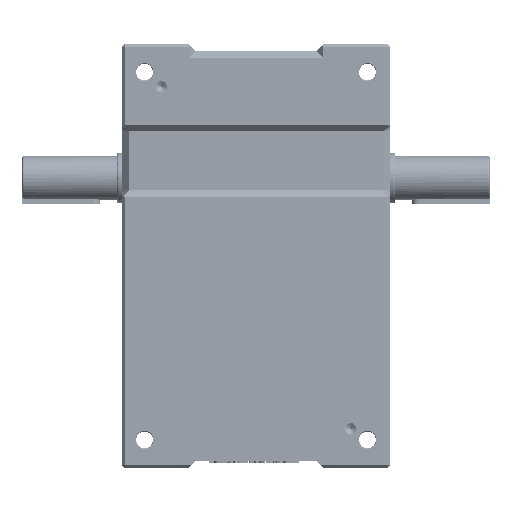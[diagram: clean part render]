
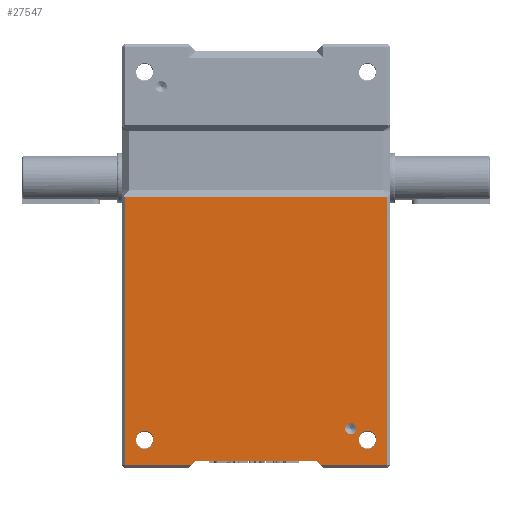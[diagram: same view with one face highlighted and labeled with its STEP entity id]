
A CAD part, front view. The second image highlights one B-rep face of the part: STEP entity #27547.
In plain terms, the highlighted planar face has unit normal (0, -1, 0).
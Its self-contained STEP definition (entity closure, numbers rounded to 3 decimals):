
#1228 = CIRCLE ( 'NONE', #66657, 8.025 ) ;
#1864 = EDGE_CURVE ( 'NONE', #98823, #67070, #161663, .T. ) ;
#3440 = CARTESIAN_POINT ( 'NONE',  ( 118., -130., 0. ) ) ;
#3555 = CARTESIAN_POINT ( 'NONE',  ( -100., -130., -165. ) ) ;
#6409 = LINE ( 'NONE', #138714, #148962 ) ;
#10758 = VERTEX_POINT ( 'NONE', #130734 ) ;
#11677 = LINE ( 'NONE', #133662, #80741 ) ;
#14515 = DIRECTION ( 'NONE',  ( -1., 0., 0. ) ) ;
#16139 = ORIENTED_EDGE ( 'NONE', *, *, #1864, .F. ) ;
#16954 = DIRECTION ( 'NONE',  ( 0., -1., 0. ) ) ;
#17451 = DIRECTION ( 'NONE',  ( 0., 0., -1. ) ) ;
#18944 = EDGE_CURVE ( 'NONE', #174953, #82368, #69424, .T. ) ;
#19798 = CARTESIAN_POINT ( 'NONE',  ( -118., -130., 0. ) ) ;
#20462 = VERTEX_POINT ( 'NONE', #91253 ) ;
#21385 = EDGE_CURVE ( 'NONE', #73410, #138637, #6409, .T. ) ;
#23296 = VERTEX_POINT ( 'NONE', #133184 ) ;
#24377 = ORIENTED_EDGE ( 'NONE', *, *, #21385, .F. ) ;
#27224 = CARTESIAN_POINT ( 'NONE',  ( 0., -130., -188. ) ) ;
#27547 = ADVANCED_FACE ( 'NONE', ( #150141, #178182, #109108, #35667 ), #76190, .F. ) ;
#28831 = DIRECTION ( 'NONE',  ( -1., 0., 0. ) ) ;
#29108 = ORIENTED_EDGE ( 'NONE', *, *, #138239, .F. ) ;
#30353 = CARTESIAN_POINT ( 'NONE',  ( 0., -130., 53. ) ) ;
#33828 = ORIENTED_EDGE ( 'NONE', *, *, #59450, .F. ) ;
#34246 = ORIENTED_EDGE ( 'NONE', *, *, #81794, .F. ) ;
#35667 = FACE_BOUND ( 'NONE', #51377, .T. ) ;
#36722 = CARTESIAN_POINT ( 'NONE',  ( 118., -130., -188. ) ) ;
#37364 = VECTOR ( 'NONE', #14515, 1000. ) ;
#41246 = CARTESIAN_POINT ( 'NONE',  ( -54., -130., -184. ) ) ;
#41668 = VECTOR ( 'NONE', #113058, 1000. ) ;
#42648 = ORIENTED_EDGE ( 'NONE', *, *, #18944, .F. ) ;
#43719 = EDGE_LOOP ( 'NONE', ( #42648, #50927, #161670, #24377, #34246, #96526, #16139, #90761 ) ) ;
#43855 = EDGE_CURVE ( 'NONE', #23296, #174953, #153338, .T. ) ;
#44557 = DIRECTION ( 'NONE',  ( 0., -1., 0. ) ) ;
#45070 = DIRECTION ( 'NONE',  ( 0., 0., -1. ) ) ;
#46805 = CARTESIAN_POINT ( 'NONE',  ( 54., -130., -184. ) ) ;
#50927 = ORIENTED_EDGE ( 'NONE', *, *, #43855, .F. ) ;
#51377 = EDGE_LOOP ( 'NONE', ( #122545, #33828 ) ) ;
#52365 = ORIENTED_EDGE ( 'NONE', *, *, #118534, .F. ) ;
#54989 = CIRCLE ( 'NONE', #161005, 5.025 ) ;
#59450 = EDGE_CURVE ( 'NONE', #20462, #10758, #54989, .T. ) ;
#62414 = EDGE_CURVE ( 'NONE', #67070, #77714, #69719, .T. ) ;
#66657 = AXIS2_PLACEMENT_3D ( 'NONE', #154285, #71574, #168143 ) ;
#66786 = VERTEX_POINT ( 'NONE', #156859 ) ;
#67070 = VERTEX_POINT ( 'NONE', #36722 ) ;
#69424 = LINE ( 'NONE', #19798, #138606 ) ;
#69719 = LINE ( 'NONE', #27224, #37364 ) ;
#69796 = DIRECTION ( 'NONE',  ( 0., -1., 0. ) ) ;
#70662 = CARTESIAN_POINT ( 'NONE',  ( 0., -130., -188. ) ) ;
#70884 = LINE ( 'NONE', #162285, #140043 ) ;
#71574 = DIRECTION ( 'NONE',  ( 0., -1., 0. ) ) ;
#73410 = VERTEX_POINT ( 'NONE', #46805 ) ;
#74496 = CIRCLE ( 'NONE', #166280, 8.025 ) ;
#76190 = PLANE ( 'NONE',  #128249 ) ;
#77714 = VERTEX_POINT ( 'NONE', #179156 ) ;
#78585 = CARTESIAN_POINT ( 'NONE',  ( 100., -130., -173.025 ) ) ;
#78807 = VERTEX_POINT ( 'NONE', #91858 ) ;
#80297 = EDGE_CURVE ( 'NONE', #98503, #78807, #74496, .T. ) ;
#80741 = VECTOR ( 'NONE', #118595, 1000. ) ;
#81794 = EDGE_CURVE ( 'NONE', #77714, #73410, #11677, .T. ) ;
#82368 = VERTEX_POINT ( 'NONE', #140793 ) ;
#82556 = DIRECTION ( 'NONE',  ( 0., -1., 0. ) ) ;
#86717 = VERTEX_POINT ( 'NONE', #128436 ) ;
#87371 = CARTESIAN_POINT ( 'NONE',  ( -118., -130., -188. ) ) ;
#90761 = ORIENTED_EDGE ( 'NONE', *, *, #148837, .F. ) ;
#91253 = CARTESIAN_POINT ( 'NONE',  ( 85., -130., -149.975 ) ) ;
#91858 = CARTESIAN_POINT ( 'NONE',  ( 100., -130., -156.975 ) ) ;
#92719 = CIRCLE ( 'NONE', #94058, 8.025 ) ;
#94058 = AXIS2_PLACEMENT_3D ( 'NONE', #152503, #69796, #166377 ) ;
#94602 = AXIS2_PLACEMENT_3D ( 'NONE', #165263, #82556, #179179 ) ;
#96526 = ORIENTED_EDGE ( 'NONE', *, *, #62414, .F. ) ;
#98503 = VERTEX_POINT ( 'NONE', #78585 ) ;
#98823 = VERTEX_POINT ( 'NONE', #138165 ) ;
#99637 = CARTESIAN_POINT ( 'NONE',  ( 100., -130., -165. ) ) ;
#100141 = DIRECTION ( 'NONE',  ( 0., -1., 0. ) ) ;
#102041 = AXIS2_PLACEMENT_3D ( 'NONE', #3555, #100141, #17451 ) ;
#102207 = CIRCLE ( 'NONE', #102041, 8.025 ) ;
#104003 = DIRECTION ( 'NONE',  ( 0., 0., 1. ) ) ;
#109108 = FACE_BOUND ( 'NONE', #167031, .T. ) ;
#113058 = DIRECTION ( 'NONE',  ( 1., 0., 0. ) ) ;
#113538 = DIRECTION ( 'NONE',  ( 0., 0., -1. ) ) ;
#115114 = ORIENTED_EDGE ( 'NONE', *, *, #80297, .F. ) ;
#115871 = EDGE_LOOP ( 'NONE', ( #115114, #127498 ) ) ;
#116430 = DIRECTION ( 'NONE',  ( 0., 0., 1. ) ) ;
#118534 = EDGE_CURVE ( 'NONE', #86717, #66786, #102207, .T. ) ;
#118595 = DIRECTION ( 'NONE',  ( -0.707, 0., 0.707 ) ) ;
#122545 = ORIENTED_EDGE ( 'NONE', *, *, #171071, .F. ) ;
#125993 = EDGE_CURVE ( 'NONE', #78807, #98503, #1228, .T. ) ;
#127324 = CARTESIAN_POINT ( 'NONE',  ( 85., -130., -155. ) ) ;
#127498 = ORIENTED_EDGE ( 'NONE', *, *, #125993, .F. ) ;
#128249 = AXIS2_PLACEMENT_3D ( 'NONE', #145044, #131193, #104003 ) ;
#128436 = CARTESIAN_POINT ( 'NONE',  ( -100., -130., -173.025 ) ) ;
#130734 = CARTESIAN_POINT ( 'NONE',  ( 85., -130., -160.025 ) ) ;
#131193 = DIRECTION ( 'NONE',  ( 0., 1., 0. ) ) ;
#133184 = CARTESIAN_POINT ( 'NONE',  ( -58., -130., -188. ) ) ;
#133662 = CARTESIAN_POINT ( 'NONE',  ( 58., -130., -188. ) ) ;
#138165 = CARTESIAN_POINT ( 'NONE',  ( 118., -130., 53. ) ) ;
#138239 = EDGE_CURVE ( 'NONE', #66786, #86717, #92719, .T. ) ;
#138588 = CIRCLE ( 'NONE', #94602, 5.025 ) ;
#138606 = VECTOR ( 'NONE', #116430, 1000. ) ;
#138637 = VERTEX_POINT ( 'NONE', #41246 ) ;
#138714 = CARTESIAN_POINT ( 'NONE',  ( 0., -130., -184. ) ) ;
#140043 = VECTOR ( 'NONE', #176172, 1000. ) ;
#140793 = CARTESIAN_POINT ( 'NONE',  ( -118., -130., 53. ) ) ;
#141203 = DIRECTION ( 'NONE',  ( 0., 0., -1. ) ) ;
#145044 = CARTESIAN_POINT ( 'NONE',  ( 0., -130., 0. ) ) ;
#148695 = VECTOR ( 'NONE', #45070, 1000. ) ;
#148837 = EDGE_CURVE ( 'NONE', #82368, #98823, #156151, .T. ) ;
#148962 = VECTOR ( 'NONE', #28831, 1000. ) ;
#149014 = VECTOR ( 'NONE', #167231, 1000. ) ;
#150141 = FACE_OUTER_BOUND ( 'NONE', #43719, .T. ) ;
#152503 = CARTESIAN_POINT ( 'NONE',  ( -100., -130., -165. ) ) ;
#153338 = LINE ( 'NONE', #70662, #149014 ) ;
#154285 = CARTESIAN_POINT ( 'NONE',  ( 100., -130., -165. ) ) ;
#156151 = LINE ( 'NONE', #30353, #41668 ) ;
#156859 = CARTESIAN_POINT ( 'NONE',  ( -100., -130., -156.975 ) ) ;
#157715 = EDGE_CURVE ( 'NONE', #138637, #23296, #70884, .T. ) ;
#161005 = AXIS2_PLACEMENT_3D ( 'NONE', #127324, #44557, #141203 ) ;
#161663 = LINE ( 'NONE', #3440, #148695 ) ;
#161670 = ORIENTED_EDGE ( 'NONE', *, *, #157715, .F. ) ;
#162285 = CARTESIAN_POINT ( 'NONE',  ( -54., -130., -184. ) ) ;
#165263 = CARTESIAN_POINT ( 'NONE',  ( 85., -130., -155. ) ) ;
#166280 = AXIS2_PLACEMENT_3D ( 'NONE', #99637, #16954, #113538 ) ;
#166377 = DIRECTION ( 'NONE',  ( 0., 0., -1. ) ) ;
#167031 = EDGE_LOOP ( 'NONE', ( #52365, #29108 ) ) ;
#167231 = DIRECTION ( 'NONE',  ( -1., 0., 0. ) ) ;
#168143 = DIRECTION ( 'NONE',  ( 0., 0., -1. ) ) ;
#171071 = EDGE_CURVE ( 'NONE', #10758, #20462, #138588, .T. ) ;
#174953 = VERTEX_POINT ( 'NONE', #87371 ) ;
#176172 = DIRECTION ( 'NONE',  ( -0.707, 0., -0.707 ) ) ;
#178182 = FACE_BOUND ( 'NONE', #115871, .T. ) ;
#179156 = CARTESIAN_POINT ( 'NONE',  ( 58., -130., -188. ) ) ;
#179179 = DIRECTION ( 'NONE',  ( 0., 0., -1. ) ) ;
